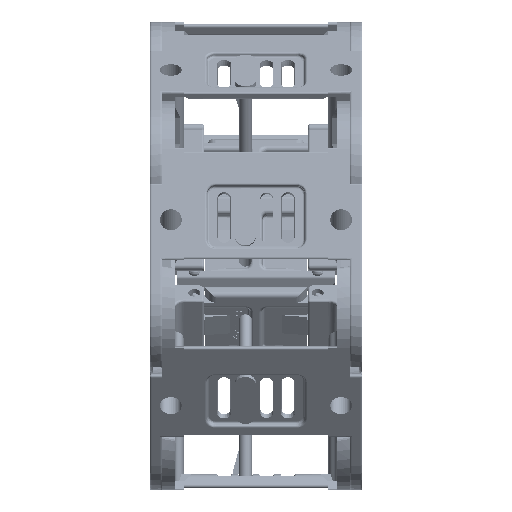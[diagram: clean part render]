
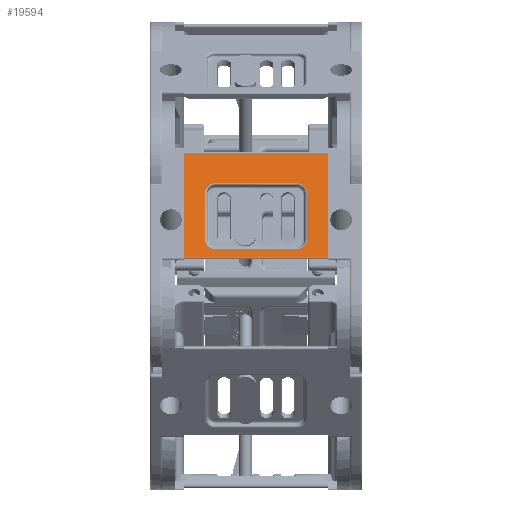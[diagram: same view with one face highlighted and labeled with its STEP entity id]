
A CAD part, front view. The second image highlights one B-rep face of the part: STEP entity #19594.
In plain terms, the highlighted planar face has unit normal (0, -0.971, 0.238) as drawn and (0, 1, 0) by its records, which use the part's own axes.
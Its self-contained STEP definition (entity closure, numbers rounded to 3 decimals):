
#568=CARTESIAN_POINT('',(-8.4,14.5,-5.0));
#569=VERTEX_POINT('',#568);
#577=CARTESIAN_POINT('',(-8.4,14.5,-39.));
#578=VERTEX_POINT('',#577);
#579=CARTESIAN_POINT('',(-8.4,14.5,-5.0));
#580=DIRECTION('',(0.0,0.0,-1.0));
#581=VECTOR('',#580,34.);
#582=LINE('',#579,#581);
#583=EDGE_CURVE('',#569,#578,#582,.T.);
#661=CARTESIAN_POINT('',(-6.601,14.5,-12.5));
#662=VERTEX_POINT('',#661);
#678=CARTESIAN_POINT('',(-6.601,14.5,-31.5));
#679=VERTEX_POINT('',#678);
#687=CARTESIAN_POINT('',(-6.601,14.5,-31.5));
#688=DIRECTION('',(0.0,0.0,1.0));
#689=VECTOR('',#688,19.);
#690=LINE('',#687,#689);
#691=EDGE_CURVE('',#679,#662,#690,.T.);
#703=CARTESIAN_POINT('',(6.899,14.5,-10.));
#704=VERTEX_POINT('',#703);
#720=CARTESIAN_POINT('',(-4.101,14.5,-10.));
#721=VERTEX_POINT('',#720);
#729=CARTESIAN_POINT('',(-4.101,14.5,-10.));
#730=DIRECTION('',(1.0,0.0,0.0));
#731=VECTOR('',#730,11.);
#732=LINE('',#729,#731);
#733=EDGE_CURVE('',#721,#704,#732,.T.);
#762=CARTESIAN_POINT('',(9.399,14.5,-12.5));
#763=VERTEX_POINT('',#762);
#771=CARTESIAN_POINT('',(9.399,14.5,-31.5));
#772=VERTEX_POINT('',#771);
#773=CARTESIAN_POINT('',(9.399,14.5,-12.5));
#774=DIRECTION('',(0.0,0.0,-1.0));
#775=VECTOR('',#774,19.);
#776=LINE('',#773,#775);
#777=EDGE_CURVE('',#763,#772,#776,.T.);
#794=CARTESIAN_POINT('',(16.672,14.5,-39.));
#795=VERTEX_POINT('',#794);
#805=CARTESIAN_POINT('',(16.672,14.5,-5.0));
#806=VERTEX_POINT('',#805);
#807=CARTESIAN_POINT('',(16.672,14.5,-39.));
#808=DIRECTION('',(0.0,0.0,1.0));
#809=VECTOR('',#808,34.);
#810=LINE('',#807,#809);
#811=EDGE_CURVE('',#795,#806,#810,.T.);
#3662=CARTESIAN_POINT('',(6.899,14.5,-34.));
#3663=VERTEX_POINT('',#3662);
#3671=CARTESIAN_POINT('',(-4.101,14.5,-34.));
#3672=VERTEX_POINT('',#3671);
#3673=CARTESIAN_POINT('',(-4.101,14.5,-34.));
#3674=DIRECTION('',(1.0,0.0,0.0));
#3675=VECTOR('',#3674,11.);
#3676=LINE('',#3673,#3675);
#3677=EDGE_CURVE('',#3672,#3663,#3676,.T.);
#7334=CARTESIAN_POINT('',(16.672,14.5,-39.));
#7335=DIRECTION('',(-1.0,0.0,0.0));
#7336=VECTOR('',#7335,25.072);
#7337=LINE('',#7334,#7336);
#7338=EDGE_CURVE('',#795,#578,#7337,.T.);
#7527=CARTESIAN_POINT('',(6.899,14.5,-31.5));
#7528=DIRECTION('',(0.0,-1.0,0.0));
#7529=DIRECTION('',(0.707,0.0,-0.707));
#7530=AXIS2_PLACEMENT_3D('',#7527,#7528,#7529);
#7531=CIRCLE('',#7530,2.5);
#7532=EDGE_CURVE('',#3663,#772,#7531,.T.);
#7552=CARTESIAN_POINT('',(-4.101,14.5,-31.5));
#7553=DIRECTION('',(0.0,-1.,0.0));
#7554=DIRECTION('',(-0.707,0.0,-0.707));
#7555=AXIS2_PLACEMENT_3D('',#7552,#7553,#7554);
#7556=CIRCLE('',#7555,2.5);
#7557=EDGE_CURVE('',#679,#3672,#7556,.T.);
#19343=CARTESIAN_POINT('',(16.672,14.5,-5.0));
#19344=DIRECTION('',(-1.0,0.0,0.0));
#19345=VECTOR('',#19344,25.072);
#19346=LINE('',#19343,#19345);
#19347=EDGE_CURVE('',#806,#569,#19346,.T.);
#19531=CARTESIAN_POINT('',(6.899,14.5,-12.5));
#19532=DIRECTION('',(0.0,1.,0.0));
#19533=DIRECTION('',(0.707,0.0,0.707));
#19534=AXIS2_PLACEMENT_3D('',#19531,#19532,#19533);
#19535=CIRCLE('',#19534,2.5);
#19536=EDGE_CURVE('',#704,#763,#19535,.T.);
#19555=CARTESIAN_POINT('',(-4.101,14.5,-12.5));
#19556=DIRECTION('',(0.0,1.,0.0));
#19557=DIRECTION('',(-0.707,0.0,0.707));
#19558=AXIS2_PLACEMENT_3D('',#19555,#19556,#19557);
#19559=CIRCLE('',#19558,2.5);
#19560=EDGE_CURVE('',#662,#721,#19559,.T.);
#19573=CARTESIAN_POINT('',(17.966,14.5,-27.0));
#19574=DIRECTION('',(0.0,-1.0,0.0));
#19575=DIRECTION('',(0.0,0.0,-1.0));
#19576=AXIS2_PLACEMENT_3D('',#19573,#19574,#19575);
#19577=PLANE('',#19576);
#19578=ORIENTED_EDGE('',*,*,#811,.F.);
#19579=ORIENTED_EDGE('',*,*,#7338,.T.);
#19580=ORIENTED_EDGE('',*,*,#583,.F.);
#19581=ORIENTED_EDGE('',*,*,#19347,.F.);
#19582=EDGE_LOOP('',(#19578,#19579,#19580,#19581));
#19583=FACE_OUTER_BOUND('',#19582,.T.);
#19584=ORIENTED_EDGE('',*,*,#777,.F.);
#19585=ORIENTED_EDGE('',*,*,#19536,.F.);
#19586=ORIENTED_EDGE('',*,*,#733,.F.);
#19587=ORIENTED_EDGE('',*,*,#19560,.F.);
#19588=ORIENTED_EDGE('',*,*,#691,.F.);
#19589=ORIENTED_EDGE('',*,*,#7557,.T.);
#19590=ORIENTED_EDGE('',*,*,#3677,.T.);
#19591=ORIENTED_EDGE('',*,*,#7532,.T.);
#19592=EDGE_LOOP('',(#19584,#19585,#19586,#19587,#19588,#19589,#19590,#19591));
#19593=FACE_BOUND('',#19592,.T.);
#19594=ADVANCED_FACE('',(#19583,#19593),#19577,.F.);
